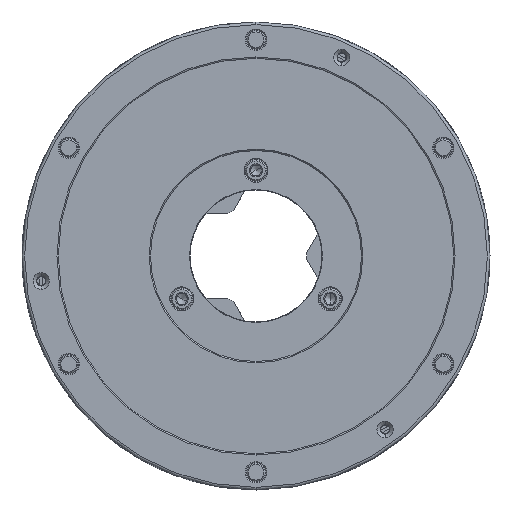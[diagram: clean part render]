
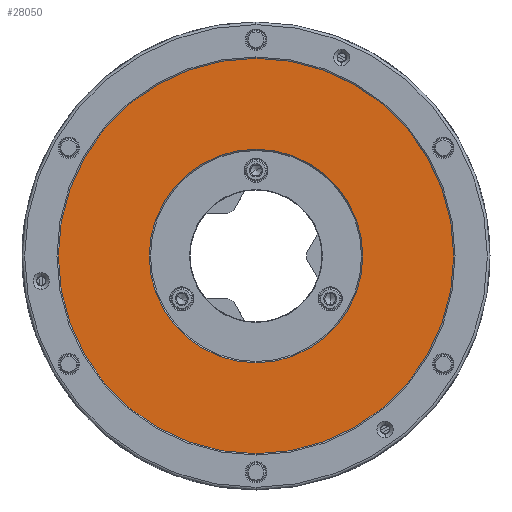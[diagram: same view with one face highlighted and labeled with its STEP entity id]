
A CAD part, left-side view. The second image highlights one B-rep face of the part: STEP entity #28050.
In plain terms, the highlighted planar face has unit normal (-1, 0, 0).
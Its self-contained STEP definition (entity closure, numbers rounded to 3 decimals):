
#1355 = CARTESIAN_POINT ( 'NONE',  ( -103., 75., 129.904 ) ) ;
#2430 = CIRCLE ( 'NONE', #5410, 150. ) ;
#4439 = VERTEX_POINT ( 'NONE', #25121 ) ;
#4605 = DIRECTION ( 'NONE',  ( 0., -0.866, 0.5 ) ) ;
#5410 = AXIS2_PLACEMENT_3D ( 'NONE', #5830, #16706, #30881 ) ;
#5830 = CARTESIAN_POINT ( 'NONE',  ( -103., 0., 0. ) ) ;
#6790 = ORIENTED_EDGE ( 'NONE', *, *, #38381, .T. ) ;
#7699 = AXIS2_PLACEMENT_3D ( 'NONE', #7901, #25990, #11605 ) ;
#7901 = CARTESIAN_POINT ( 'NONE',  ( -103., 0., 0. ) ) ;
#8056 = DIRECTION ( 'NONE',  ( 1., 0., 0. ) ) ;
#11057 = AXIS2_PLACEMENT_3D ( 'NONE', #44226, #12456, #43769 ) ;
#11397 = CIRCLE ( 'NONE', #7699, 150. ) ;
#11425 = VERTEX_POINT ( 'NONE', #31000 ) ;
#11605 = DIRECTION ( 'NONE',  ( 0., 0.866, -0.5 ) ) ;
#12161 = ORIENTED_EDGE ( 'NONE', *, *, #39499, .F. ) ;
#12456 = DIRECTION ( 'NONE',  ( 1., 0., 0. ) ) ;
#12825 = EDGE_LOOP ( 'NONE', ( #21887, #12161 ) ) ;
#16443 = VERTEX_POINT ( 'NONE', #27317 ) ;
#16706 = DIRECTION ( 'NONE',  ( 1., 0., 0. ) ) ;
#17298 = CIRCLE ( 'NONE', #23212, 81. ) ;
#19201 = FACE_OUTER_BOUND ( 'NONE', #12825, .T. ) ;
#21887 = ORIENTED_EDGE ( 'NONE', *, *, #41150, .F. ) ;
#23212 = AXIS2_PLACEMENT_3D ( 'NONE', #45655, #8056, #25239 ) ;
#24563 = ORIENTED_EDGE ( 'NONE', *, *, #28049, .T. ) ;
#25121 = CARTESIAN_POINT ( 'NONE',  ( -103., 0., -150. ) ) ;
#25239 = DIRECTION ( 'NONE',  ( 0., 0.866, -0.5 ) ) ;
#25990 = DIRECTION ( 'NONE',  ( 1., 0., 0. ) ) ;
#26393 = DIRECTION ( 'NONE',  ( -1., 0., 0. ) ) ;
#26843 = PLANE ( 'NONE',  #28095 ) ;
#27317 = CARTESIAN_POINT ( 'NONE',  ( -103., 0., 150. ) ) ;
#28049 = EDGE_CURVE ( 'NONE', #42878, #11425, #34787, .T. ) ;
#28050 = ADVANCED_FACE ( 'NONE', ( #33816, #19201 ), #26843, .T. ) ;
#28095 = AXIS2_PLACEMENT_3D ( 'NONE', #1355, #26393, #4605 ) ;
#28214 = EDGE_LOOP ( 'NONE', ( #6790, #24563 ) ) ;
#30566 = CARTESIAN_POINT ( 'NONE',  ( -103., 70.148, -40.5 ) ) ;
#30881 = DIRECTION ( 'NONE',  ( 0., 0.866, -0.5 ) ) ;
#31000 = CARTESIAN_POINT ( 'NONE',  ( -103., -70.148, 40.5 ) ) ;
#33816 = FACE_BOUND ( 'NONE', #28214, .T. ) ;
#34787 = CIRCLE ( 'NONE', #11057, 81. ) ;
#38381 = EDGE_CURVE ( 'NONE', #11425, #42878, #17298, .T. ) ;
#39499 = EDGE_CURVE ( 'NONE', #16443, #4439, #2430, .T. ) ;
#41150 = EDGE_CURVE ( 'NONE', #4439, #16443, #11397, .T. ) ;
#42878 = VERTEX_POINT ( 'NONE', #30566 ) ;
#43769 = DIRECTION ( 'NONE',  ( 0., 0.866, -0.5 ) ) ;
#44226 = CARTESIAN_POINT ( 'NONE',  ( -103., 0., 0. ) ) ;
#45655 = CARTESIAN_POINT ( 'NONE',  ( -103., 0., 0. ) ) ;
